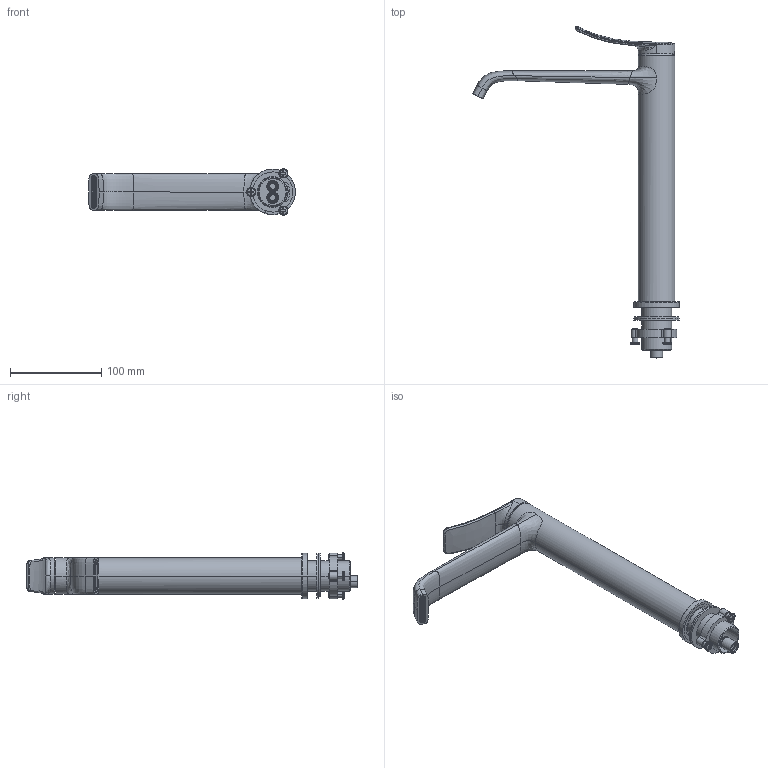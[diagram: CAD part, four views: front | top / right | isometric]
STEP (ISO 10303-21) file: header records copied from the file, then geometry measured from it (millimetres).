
FILE_DESCRIPTION((''),'2;1');
FILE_NAME('VQR168R31_ASM','2023-08-28T',('fth54'),(''),'CREO PARAMETRIC BY PTC INC, 2015480','CREO PARAMETRIC BY PTC INC, 2015480','');
FILE_SCHEMA(('CONFIG_CONTROL_DESIGN'));
Length unit declared in the file: millimetre
Products named in the file (30): 80T168R3101; 81T168329; 8J27X2A; J14261KD00; 8YG168329; 8J296X18A; 8ZG168332; 80P26VQR2; 8EM5X4; 8J30X2A; 80M24X6-R01; 80M24X6-R02; 80M24X6-R03; 80M149002NP0_ASM; 82T67067; 5DZ1B415; 86T16303; 8J49X33X2; 80N569X54; 7J45X38X25; 9NM56Z55; 8RM6X15; 80W08224-R01; 8JT80000-R01; 8NM80000-R01; 8JG08250_ASM; 80W08254-R01; 8JG08280_ASM; 8J10X19A; VQR168R31_ASM
Assembly tree (35 placements, depth 3):
  VQR168R31_ASM
    80T168R3101
    81T168329
    8J27X2A
    J14261KD00
    8YG168329
    8J296X18A
    8ZG168332
    80P26VQR2
    8EM5X4
    8J30X2A
    80M149002NP0_ASM
      80M24X6-R01
      80M24X6-R02
      80M24X6-R03
    82T67067  x2
    5DZ1B415
    86T16303
    8J49X33X2
    80N569X54
    7J45X38X25
    9NM56Z55
    8RM6X15  x3
    8JG08250_ASM
      80W08224-R01
      8JT80000-R01
      8NM80000-R01
    8JG08280_ASM
      80W08254-R01
      8JT80000-R01
      8NM80000-R01
    8J10X19A  x2
Bounding box: 226.74 x 363.93 x 50.7 mm (x, y, z)
Volume: 506720.4 mm3; surface area: 145316.2 mm2
Topology: 34 solids, 34 shells, 1794 faces, 4875 edges, 3109 vertices
Faces by surface type: cylinder 706, plane 599, cone 175, torus 145, bspline 124, extrusion 22, sphere 18, revolution 5
Entity records: 65597 total; most frequent: CARTESIAN_POINT 21474, DIRECTION 9229, ORIENTED_EDGE 9126, EDGE_CURVE 4563, AXIS2_PLACEMENT_3D 3533, VERTEX_POINT 2928, VECTOR 2158, LINE 2136
